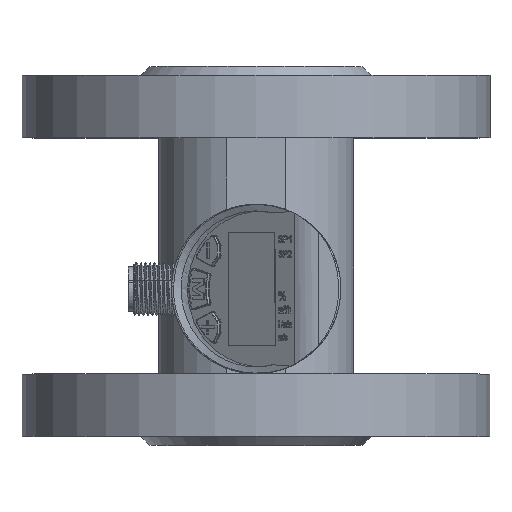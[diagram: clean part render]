
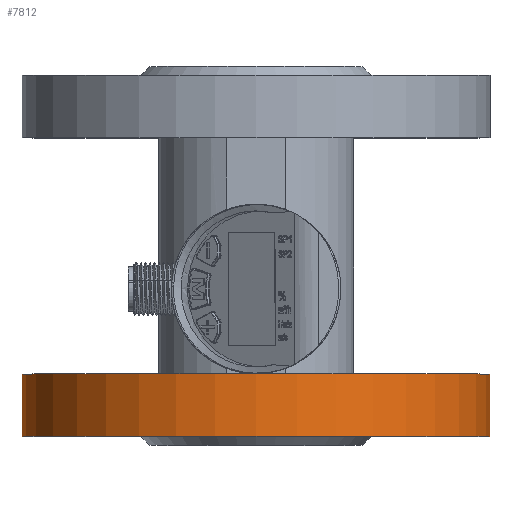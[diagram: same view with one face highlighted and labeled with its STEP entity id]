
A CAD part, top view. The second image highlights one B-rep face of the part: STEP entity #7812.
In plain terms, the highlighted cylindrical face has radius 52.5 mm (diameter 105 mm), a full revolution.
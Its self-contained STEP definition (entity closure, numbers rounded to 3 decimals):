
#6044=CYLINDRICAL_SURFACE('',#22807,52.5);
#7812=ADVANCED_FACE('',(#8638,#8639),#6044,.T.);
#8638=FACE_BOUND('',#9888,.T.);
#8639=FACE_BOUND('',#9889,.T.);
#9888=EDGE_LOOP('',(#15194));
#9889=EDGE_LOOP('',(#15195));
#10524=CIRCLE('',#22805,52.5);
#10525=CIRCLE('',#22806,52.5);
#15194=ORIENTED_EDGE('',*,*,#19168,.T.);
#15195=ORIENTED_EDGE('',*,*,#19169,.T.);
#16819=VERTEX_POINT('',#44301);
#16820=VERTEX_POINT('',#44303);
#19168=EDGE_CURVE('',#16819,#16819,#10524,.T.);
#19169=EDGE_CURVE('',#16820,#16820,#10525,.T.);
#22805=AXIS2_PLACEMENT_3D('',#44300,#26892,#26893);
#22806=AXIS2_PLACEMENT_3D('',#44302,#26894,#26895);
#22807=AXIS2_PLACEMENT_3D('',#44304,#26896,#26897);
#26892=DIRECTION('',(0.,-1.,0.));
#26893=DIRECTION('',(1.,0.,0.));
#26894=DIRECTION('',(0.,1.,0.));
#26895=DIRECTION('',(1.,0.,0.));
#26896=DIRECTION('',(0.,-1.,0.));
#26897=DIRECTION('',(-1.,0.,0.));
#44300=CARTESIAN_POINT('',(25.516,17.6,-117.224));
#44301=CARTESIAN_POINT('',(78.016,17.6,-117.224));
#44302=CARTESIAN_POINT('',(25.516,3.6,-117.224));
#44303=CARTESIAN_POINT('',(78.016,3.6,-117.224));
#44304=CARTESIAN_POINT('',(25.516,17.6,-117.224));
